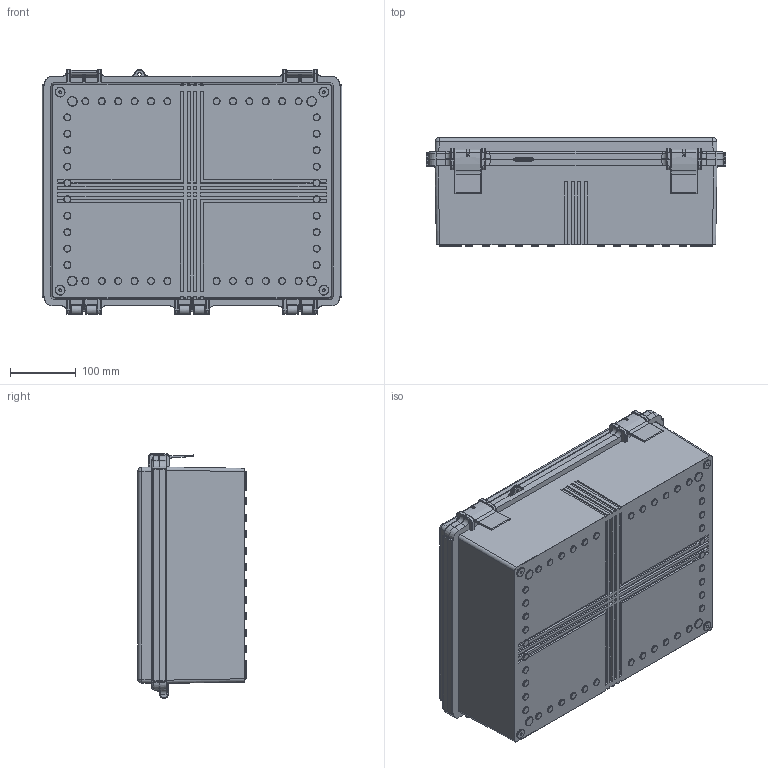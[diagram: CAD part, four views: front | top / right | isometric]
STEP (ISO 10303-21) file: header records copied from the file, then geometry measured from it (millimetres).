
FILE_DESCRIPTION (( 'STEP AP214' ), '1' );
FILE_NAME ('NBF-32028.STEP', '2011-03-03T13:37:08', ( '' ), ( '' ), 'SwSTEP 2.0', 'SolidWorks 2010', '' );
FILE_SCHEMA (( 'AUTOMOTIVE_DESIGN' ));
Products named in the file (4): NBF-32028-B; NBF-32028-C; Latch-med-large; NBF-32028
Assembly tree (4 placements, depth 2):
  NBF-32028
    Latch-med-large  x2
    NBF-32028-B
    NBF-32028-C
Bounding box: 457 x 165 x 373.5 mm (x, y, z)
Volume: 2318818.2 mm3; surface area: 1213795.4 mm2
Topology: 4 solids, 4 shells, 1953 faces, 4713 edges, 2895 vertices
Faces by surface type: plane 624, cylinder 576, torus 284, cone 227, bspline 156, sphere 86
Entity records: 76776 total; most frequent: CARTESIAN_POINT 34698, DIRECTION 8872, ORIENTED_EDGE 8832, EDGE_CURVE 4416, AXIS2_PLACEMENT_3D 3459, VERTEX_POINT 2731, EDGE_LOOP 2049, VECTOR 1954
